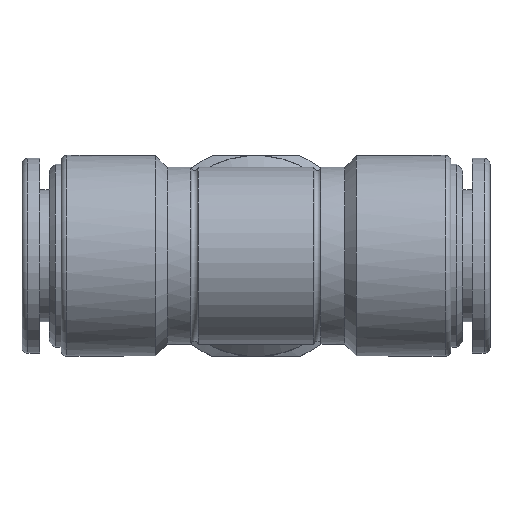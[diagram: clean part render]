
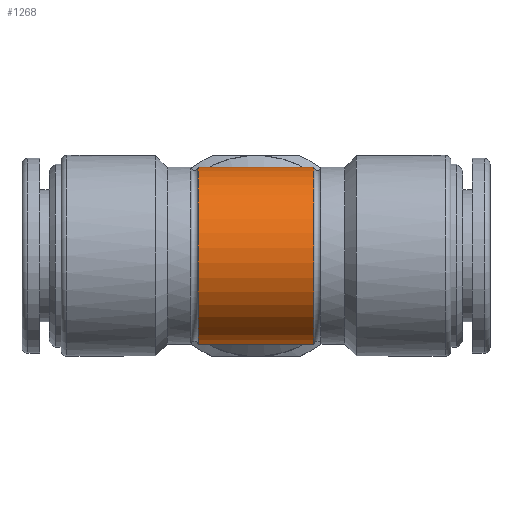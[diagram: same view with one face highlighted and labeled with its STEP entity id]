
A CAD part, top view. The second image highlights one B-rep face of the part: STEP entity #1268.
In plain terms, the highlighted cylindrical face has radius 7.5 mm (diameter 15 mm), a partial arc.
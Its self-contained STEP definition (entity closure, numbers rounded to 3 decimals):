
#23=ELLIPSE($,#1353,10.607,7.5);
#24=ELLIPSE($,#1355,10.607,7.5);
#27=ELLIPSE($,#1424,10.607,7.5);
#28=ELLIPSE($,#1425,10.607,7.5);
#219=CYLINDRICAL_SURFACE($,#1445,7.5);
#296=FACE_OUTER_BOUND($,#409,.T.);
#409=EDGE_LOOP($,(#1152,#1153,#1154,#1155,#1156,#1157));
#447=CIRCLE($,#1340,7.5);
#494=CIRCLE($,#1444,7.5);
#581=VERTEX_POINT($,#2035);
#583=VERTEX_POINT($,#2043);
#591=VERTEX_POINT($,#2113);
#592=VERTEX_POINT($,#2114);
#634=VERTEX_POINT($,#2313);
#635=VERTEX_POINT($,#2322);
#720=EDGE_CURVE($,#581,#583,#447,.T.);
#731=EDGE_CURVE($,#591,#592,#23,.T.);
#733=EDGE_CURVE($,#583,#592,#24,.T.);
#797=EDGE_CURVE($,#635,#634,#27,.T.);
#798=EDGE_CURVE($,#635,#581,#28,.T.);
#818=EDGE_CURVE($,#634,#591,#494,.T.);
#1152=ORIENTED_EDGE($,*,*,#797,.T.);
#1153=ORIENTED_EDGE($,*,*,#818,.T.);
#1154=ORIENTED_EDGE($,*,*,#731,.T.);
#1155=ORIENTED_EDGE($,*,*,#733,.F.);
#1156=ORIENTED_EDGE($,*,*,#720,.F.);
#1157=ORIENTED_EDGE($,*,*,#798,.F.);
#1268=ADVANCED_FACE($,(#296),#219,.T.);
#1340=AXIS2_PLACEMENT_3D($,#2044,#1604,#1605);
#1353=AXIS2_PLACEMENT_3D($,#2115,#1631,#1632);
#1355=AXIS2_PLACEMENT_3D($,#2117,#1635,#1636);
#1424=AXIS2_PLACEMENT_3D($,#2323,#1786,#1787);
#1425=AXIS2_PLACEMENT_3D($,#2324,#1788,#1789);
#1444=AXIS2_PLACEMENT_3D($,#2370,#1834,#1835);
#1445=AXIS2_PLACEMENT_3D($,#2371,#1836,#1837);
#1604=DIRECTION('center_axis',(-1.,0.,0.));
#1605=DIRECTION('ref_axis',(0.,-1.,0.));
#1631=DIRECTION('center_axis',(0.707,0.,0.707));
#1632=DIRECTION('ref_axis',(0.707,0.,-0.707));
#1635=DIRECTION('center_axis',(0.707,0.,-0.707));
#1636=DIRECTION('ref_axis',(-0.707,0.,-0.707));
#1786=DIRECTION('center_axis',(0.707,0.,0.707));
#1787=DIRECTION('ref_axis',(0.707,0.,-0.707));
#1788=DIRECTION('center_axis',(0.707,0.,-0.707));
#1789=DIRECTION('ref_axis',(-0.707,0.,-0.707));
#1834=DIRECTION('center_axis',(-1.,0.,0.));
#1835=DIRECTION('ref_axis',(0.,-1.,0.));
#1836=DIRECTION('center_axis',(1.,0.,0.));
#1837=DIRECTION('ref_axis',(0.,-1.,0.));
#2035=CARTESIAN_POINT('',(-4.9,-5.678,-4.9));
#2043=CARTESIAN_POINT('',(-4.9,5.678,-4.9));
#2044=CARTESIAN_POINT('Origin',(-4.9,0.,0.));
#2113=CARTESIAN_POINT('',(4.9,5.678,-4.9));
#2114=CARTESIAN_POINT('',(0.,7.5,0.));
#2115=CARTESIAN_POINT('Origin',(0.,0.,0.));
#2117=CARTESIAN_POINT('Origin',(0.,0.,0.));
#2313=CARTESIAN_POINT('',(4.9,-5.678,-4.9));
#2322=CARTESIAN_POINT('',(0.,-7.5,0.));
#2323=CARTESIAN_POINT('Origin',(0.,0.,0.));
#2324=CARTESIAN_POINT('Origin',(0.,0.,0.));
#2370=CARTESIAN_POINT('Origin',(4.9,0.,0.));
#2371=CARTESIAN_POINT('Origin',(0.,0.,0.));
